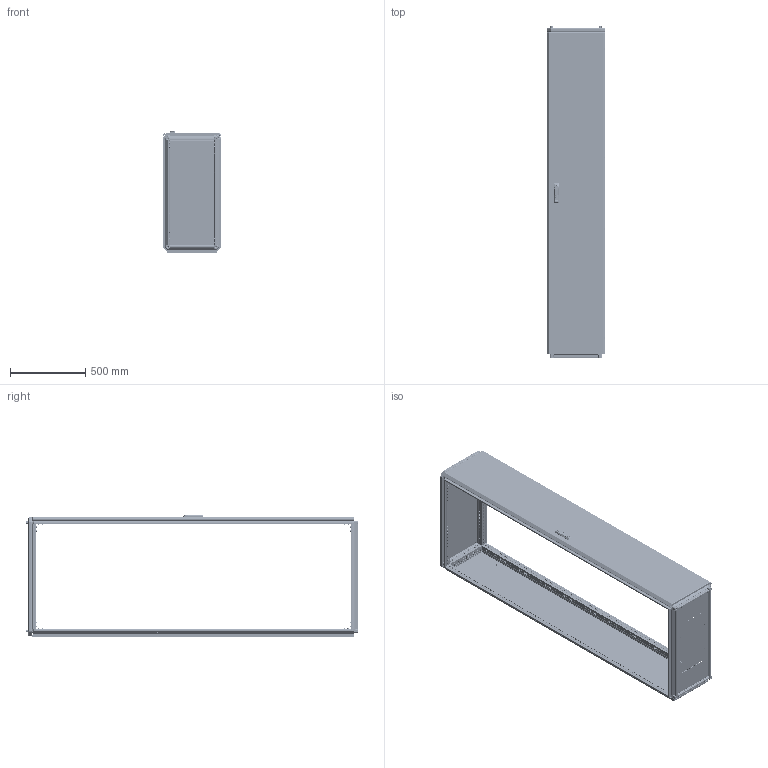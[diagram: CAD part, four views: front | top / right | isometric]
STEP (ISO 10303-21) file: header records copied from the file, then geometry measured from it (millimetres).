
FILE_DESCRIPTION (( 'STEP AP203' ), '1' );
FILE_NAME ('MA1.000.040822.10.00 AleSta2248 Øêàô AleSta 400õ800õ2200.STEP', '2024-08-23T08:42:42', ( '' ), ( '' ), 'SwSTEP 2.0', 'SolidWorks 2021', '' );
FILE_SCHEMA (( 'CONFIG_CONTROL_DESIGN' ));
Length unit declared in the file: millimetre
Products named in the file (50): òÿãà_lg001-2.STEP_‚=2200; Áîëò øåñòèãðàííûé Ì5õ12 DIN 933, êëàññ ïðî÷íîñòè 8.8, îöèíêîâàííàÿ ñòàëü; MA1.100.060620.00.01 Ñîåäèíèòåëü óãëîâîé_00; Ïåòëÿ íà äâåðü ï-îáðàçíàÿ; MA1.200.060620.11.00 Ïàíåëü çàäíÿÿ, äëÿ øêàôîâ AleSta, 2000x600_2200å400; MA1.101.060620.00.02 Ïðîôèëü ïîïåðå÷íûé ñâàðíîé_00 L=298 (˜=400); MA1.101.060620.00.00 AleSta-RB66 Êîìïëåêò êðûøà è îñíîâàíèå_ 400å800; MA1.200.060620.11.01 Ïîëîòíî çàäíåé ïàíåëè 2000õ600_2200å400; ﾇﾀﾊﾋﾅﾏﾊﾀ ﾃﾀﾅﾗﾍﾀﾟ ﾘﾅﾑﾒﾈﾃﾐﾀﾍﾍﾀﾟ ﾑ ﾓﾌﾅﾍﾜﾘﾅﾍﾍﾛﾌ ﾁﾎﾐﾒﾎﾌ M4 X 11 (0.5-2.5 ﾌﾌ) HEX U-S ﾖﾈﾍﾊ; äåðæàòåëü_êðóãëîé_òÿãèRG002-RG1010-2-i-RG1010-3-.stp; MA1.101.060620.00.02 Ïðîôèëü ïîïåðå÷íûé ñâàðíîé_02 L=698 (˜=800) ; MA1.200.060620.31.00 Äâåðü ñïëîøíàÿ äëÿ øêàôîâ ALESTA ÂõØ 2000õ600_2200å400; Îñü ïåòëè 4õ52_‚¨­â A.M4x0,5x40 ƒŽ‘’ 11644-75; ﾘ琺矜 01.019 ﾃﾎﾑﾒ11371-78_12; êðåïëåíèå_êðóãëîé_òÿãè_RG1020-1.stp; Âèíò ñàìîíàðåçàþùèé ñ ïîòàéíîé ãîëîâêîé Ì5x14 DIN 7500 M TORX, êëàññ ïðî÷íîñòè 8.8, îöèíêîâàííàÿ ñòàëü_Œ5å12; MA1.200.060620.10.00 AleSta-PR206  Ïàíåëü çàäíÿÿ, äëÿ øêàôîâ ALESTA, 2000 x 600_2200å400; MA1.101.060620.10.00 Êðûøà 600x600_400å800; Øïèëüêà Ì6õ12_˜¯¨«ìª  Œ6å12; MA1.200.060620.31.05 Óãëîâîé óïîð äâåðíîé òÿãè; Âèíò_ðåçüáîâûäàâëèâàþùèé_Ì5õ12_DIN 7500E_Œ5å12; Âèíò_ðåçüáîâûäàâëèâàþùèé_Ì5õ12_DIN 7500E_00; MA1.101.060620.20.00 Íèæíÿÿ ïàíåëü 600õ600_400å800; MA1.101.060620.10.01 Ïîëîòíî êðûøè 600õ600_400å800; MA1.102.060620.00.00 AleSta-VG2000 Ñòîéêè âåðòèêàëüíûå, Â=2000ìì  (4øò)_ 400å800; MA1.200.060620.31.02 Ðåéêà íà äâåðü âåðòèêàëüíàÿ Â = 2000_‚ = 2200; Ãàéêà ñàìîêîíòðÿùàÿñÿ ñ íåéëîíîâîé âñòàâêîé Ì6 DIN 985, êëàññ ïðî÷íîñòè 8, îöèíêîâàííàÿ ñòàëü_Œ5; Øïèëüêà Ì6õ12_˜¯¨«ìª  Œ6å16; Âèíò ñàìîíàðåçàþùèé ñ ïîòàéíîé ãîëîâêîé Ì5x14 DIN 7500 M TORX, êëàññ ïðî÷íîñòè 8.8, îöèíêîâàííàÿ ñòàëü_Œ5å14; ﾘ琺矜 65ﾃ 019 ﾃﾎﾑﾒ 6402-70_12; MA1.101.060620.20.02 Çàêðûòèå íèæíåé ïàíåëè 600õ600_400x800; MA1.102.060620.00.01 Ïðîôèëü âåðòèêàëüíûé ñâàðíîé_05 L=2098 (‚=2200); MS463-2-3(1); 諘蜱齁罻 022 瀁錒瀔隮; Ïðîáêà ïëàñòèêîâàÿ óíèâåðñàëüíàÿ ïîä îòâåðñòèå 4,5 ìì, ñåðèÿ ST, öâåò áåñöâåòíûé – ST4,5; Âèíò ñ âí. øåñòèãðàííèêîì M12 DIN912_•30; Âèíò ðåçüáîâûäàâëèâàþùèé Ì6õ12 DIN 7500E_Œ6å10; Óïëîòíèòåëü ïàíåëè íèæíåé_  ‚=2200; MA1.000.040822.10.00 AleSta2248 Øêàô AleSta 400õ800õ2200; Íàâåñêà íà êîðïóñ ïîä êëåïêó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
Assembly tree (337 placements, depth 4):
  Ïðîáêà ïëàñòèêîâàÿ óíèâåðñàëüíàÿ ïîä îòâåðñòèå 4,5 ìì, ñåðèÿ ST, öâåò áåñöâåòíûé – ST4,5
  MA1.000.040822.10.00 AleSta2248 Øêàô AleSta 400õ800õ2200
    MA1.101.060620.00.00 AleSta-RB66 Êîìïëåêò êðûøà è îñíîâàíèå_ 400å800
      MA1.101.060620.00.02 Ïðîôèëü ïîïåðå÷íûé ñâàðíîé_02 L=698 (˜=800)   x4
      MA1.101.060620.00.02 Ïðîôèëü ïîïåðå÷íûé ñâàðíîé_00 L=298 (˜=400)  x4
      MA1.101.060620.10.00 Êðûøà 600x600_400å800
        MA1.101.060620.10.01 Ïîëîòíî êðûøè 600õ600_400å800
        Øïèëüêà Ì6õ12_˜¯¨«ìª  Œ6å12  x4
        Óïëîòíèòåëü ïàíåëè íèæíåé_400å800
      MA1.101.060620.20.00 Íèæíÿÿ ïàíåëü 600õ600_400å800
        MA1.101.060620.20.01 Ïîëîòíî íèæíåé ïàíåëè 600õ600_400å800
        ﾇﾀﾊﾋﾅﾏﾊﾀ ﾃﾀﾅﾗﾍﾀﾟ ﾘﾅﾑﾒﾈﾃﾐﾀﾍﾍﾀﾟ ﾑ ﾓﾌﾅﾍﾜﾘﾅﾍﾍﾛﾌ ﾁﾎﾐﾒﾎﾌ M4 X 11 (0.5-2.5 ﾌﾌ) HEX U-S ﾖﾈﾍﾊ  x4
        MA1.101.060620.20.02 Çàêðûòèå íèæíåé ïàíåëè 600õ600_400x800  x2
        7380-2 ISO Âèíòû ñ ïîëóêðóãëîé ãîëîâêîé ñ ôëàíöåì ñ âíóòðåííèì øåñòèãðàííèêîì Ì4õ10  x4
      Âèíò_ðåçüáîâûäàâëèâàþùèé_Ì5õ12_DIN 7500E_Œ5å12  x8
      MA1.100.060620.00.01 Ñîåäèíèòåëü óãëîâîé_00  x8
      Âèíò ñ âí. øåñòèãðàííèêîì M12 DIN912_•30  x4
      Âèíò ðåçüáîâûäàâëèâàþùèé Ì6õ12 DIN 7500E_Œ6å10  x96
      ﾘ琺矜 01.019 ﾃﾎﾑﾒ11371-78_12  x4
      ﾘ琺矜 65ﾃ 019 ﾃﾎﾑﾒ 6402-70_12  x4
      Øàéáà ñòîïîðíàÿ ñ íàðóæíûìè çóáöàìè SCHNORR, òèï VS öèíêîâûå õëîïüÿ Ì6 O6,4 ART 88121_Œ6  x80
    MA1.102.060620.00.00 AleSta-VG2000 Ñòîéêè âåðòèêàëüíûå, Â=2000ìì  (4øò)_ 400å800
      MA1.102.060620.00.01 Ïðîôèëü âåðòèêàëüíûé ñâàðíîé_05 L=2098 (‚=2200)  x4
    MA1.200.060620.10.00 AleSta-PR206  Ïàíåëü çàäíÿÿ, äëÿ øêàôîâ ALESTA, 2000 x 600_2200å400
      MA1.200.060620.11.00 Ïàíåëü çàäíÿÿ, äëÿ øêàôîâ AleSta, 2000x600_2200å400
        MA1.200.060620.11.01 Ïîëîòíî çàäíåé ïàíåëè 2000õ600_2200å400
        Óïëîòíèòåëü ïàíåëè íèæíåé_  ‚=2200
        Øïèëüêà Ì6õ12_˜¯¨«ìª  Œ6å12  x4
      Âèíò ñàìîíàðåçàþùèé ñ ïîòàéíîé ãîëîâêîé Ì5x14 DIN 7500 M TORX, êëàññ ïðî÷íîñòè 8.8, îöèíêîâàííàÿ ñòàëü_Œ5å14  x8
    MA1.200.060620.30.00 AleSta-D20M600 Äâåðü ñïëîøíàÿ äëÿ øêàôîâ ALESTA ÂõØ 2000õ600_2200å400
      MA1.200.060620.31.00 Äâåðü ñïëîøíàÿ äëÿ øêàôîâ ALESTA ÂõØ 2000õ600_2200å400
        MA1.200.060620.31.01 Ïîëîòíî äâåðè ñïëîøíîé 2000õ600_2200å400
        Óïëîòíèòåëü ïàíåëè íèæíåé_  ‚=2200
        Øïèëüêà Ì6õ12_˜¯¨«ìª  Œ6å20  x16
        Øïèëüêà Ì6õ12_˜¯¨«ìª  Œ6å16  x4
        Ïåòëÿ íà äâåðü ï-îáðàçíàÿ  x4
      MA1.200.060620.31.03 Ðåéêà íà äâåðü ãîðèçîíòàëüíàÿ Ø = 600_˜=400  x2
      諘蜱齁罻 022 瀁錒瀔隮  x4
      MA1.200.060620.31.02 Ðåéêà íà äâåðü âåðòèêàëüíàÿ Â = 2000_‚ = 2200  x2
      äåðæàòåëü_êðóãëîé_òÿãèRG002-RG1010-2-i-RG1010-3-.stp  x2
      òÿãà_lg001-2.STEP_‚=2200  x2
      êðåïëåíèå_êðóãëîé_òÿãè_RG1020-1.stp  x2
      MS463-2-3(1)
      Ãàéêà ñàìîêîíòðÿùàÿñÿ ñ íåéëîíîâîé âñòàâêîé Ì6 DIN 985, êëàññ ïðî÷íîñòè 8, îöèíêîâàííàÿ ñòàëü_Œ6  x16
      Ãàéêà ñàìîêîíòðÿùàÿñÿ ñ íåéëîíîâîé âñòàâêîé Ì6 DIN 985, êëàññ ïðî÷íîñòè 8, îöèíêîâàííàÿ ñòàëü_Œ5  x2
      Áîëò øåñòèãðàííûé Ì5õ12 DIN 933, êëàññ ïðî÷íîñòè 8.8, îöèíêîâàííàÿ ñòàëü  x2
      MA1.200.060620.31.04 ðèãåëü çàìêà äâåðè
      MA1.200.060620.31.05 Óãëîâîé óïîð äâåðíîé òÿãè  x2
      Âèíò_ðåçüáîâûäàâëèâàþùèé_Ì5õ12_DIN 7500E_00  x2
      Íàâåñêà íà êîðïóñ ïîä êëåïêó  x4
      Îñü ïåòëè 4õ52_‚¨­â A.M4x0,5x40 ƒŽ‘’ 11644-75  x4
      Âèíò ñàìîíàðåçàþùèé ñ ïîòàéíîé ãîëîâêîé Ì5x14 DIN 7500 M TORX, êëàññ ïðî÷íîñòè 8.8, îöèíêîâàííàÿ ñòàëü_Œ5å12  x8
Bounding box: 392 x 2210.9 x 816.8 mm (x, y, z)
Volume: 8471145.4 mm3; surface area: 10450304.4 mm2
Topology: 364 solids, 378 shells, 24203 faces, 62646 edges, 39272 vertices
Faces by surface type: plane 14505, cylinder 7005, bspline 921, cone 845, torus 829, sphere 98
Entity records: 253256 total; most frequent: CARTESIAN_POINT 80617, ORIENTED_EDGE 33074, DIRECTION 32512, EDGE_CURVE 16554, AXIS2_PLACEMENT_3D 11120, VERTEX_POINT 10333, LINE 10272, VECTOR 10272
